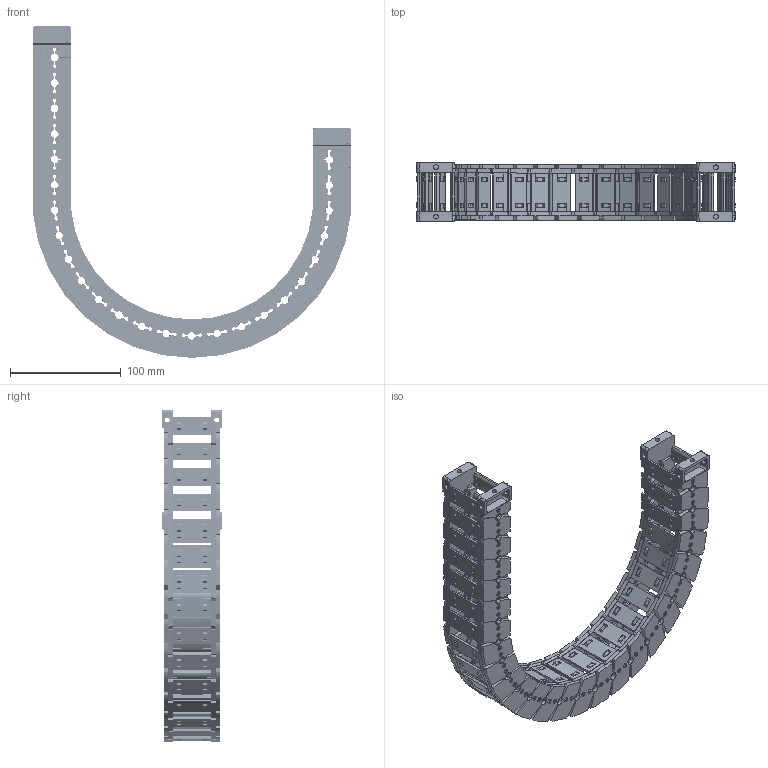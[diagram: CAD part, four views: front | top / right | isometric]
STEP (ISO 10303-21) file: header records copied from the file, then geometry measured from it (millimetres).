
FILE_DESCRIPTION((''),'2;1');
FILE_NAME('JY-28X35-R125_ASM','2026-03-25T19:54:12',('admin'),(''),'CREO PARAMETRIC BY PTC INC, 2021023','CREO PARAMETRIC BY PTC INC, 2021023','');
FILE_SCHEMA(('CONFIG_CONTROL_DESIGN'));
Length unit declared in the file: millimetre
Products named in the file (11): 28XL-L; 25-35XL-YP; 28XL-R; ASM0001_ASM; 28-LTT-A-L; 28-LTT-A-R; 28XL-LTT-A_ASM; 28-LTT-B-L; 28-LTT-B-R; 28XL-LTT-B_ASM; JY-28X35-R125_ASM
Assembly tree (38 placements, depth 3):
  JY-28X35-R125_ASM
    ASM0001_ASM  x24
      28XL-L
      25-35XL-YP
      28XL-R
    28XL-LTT-A_ASM
      28-LTT-A-L
      25-35XL-YP  x2
      28-LTT-A-R
    28XL-LTT-B_ASM
      28-LTT-B-L
      25-35XL-YP  x2
      28-LTT-B-R
Bounding box: 287.57 x 53.5 x 299.79 mm (x, y, z)
Volume: 353066.1 mm3; surface area: 257531.8 mm2
Topology: 104 solids, 104 shells, 8438 faces, 25084 edges, 16750 vertices
Faces by surface type: plane 5532, cone 1522, cylinder 1210, bspline 174
Entity records: 29143 total; most frequent: CARTESIAN_POINT 9496, ORIENTED_EDGE 4352, DIRECTION 3667, EDGE_CURVE 2176, VERTEX_POINT 1454, VECTOR 1365, LINE 1365, AXIS2_PLACEMENT_3D 1151
